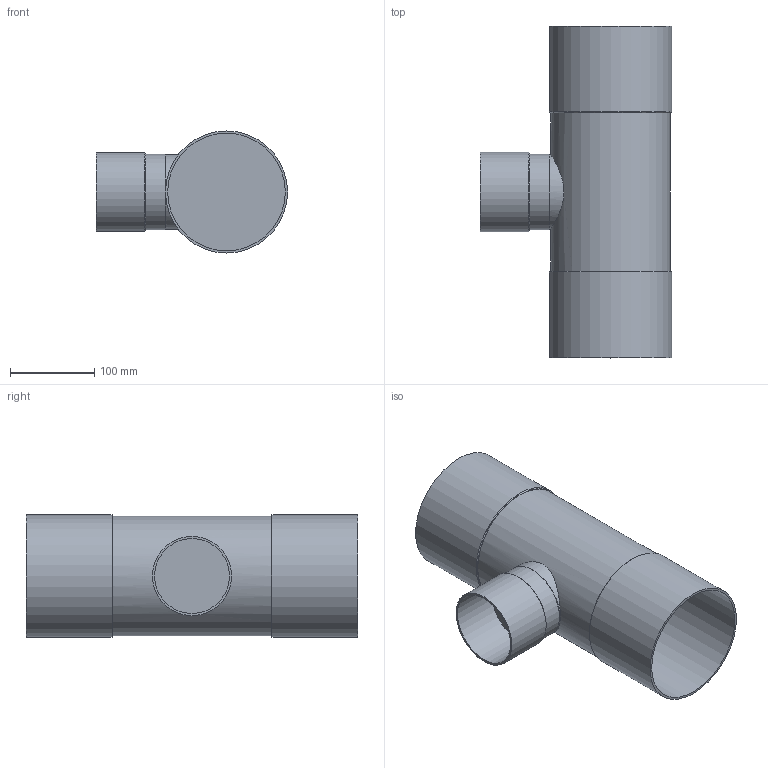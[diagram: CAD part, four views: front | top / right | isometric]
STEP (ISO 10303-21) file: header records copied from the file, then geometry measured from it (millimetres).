
FILE_DESCRIPTION(/* description */ ('Unknown'),/* implementation_level */ '2;1');
FILE_NAME(/* name */ 'F15DN139,7-88,9',/* time_stamp */ '2020-11-17T12:45:33+01:00',/* author */ ('Unknown'),/* organization */ ('Unknown'),/* preprocessor_version */ 'ST-DEVELOPER v16.7',/* originating_system */ 'DEX',/* authorisation */ $);
FILE_SCHEMA (('AUTOMOTIVE_DESIGN {1 0 10303 214 3 1 1}'));
Length unit declared in the file: millimetre
Products named in the file (1): F15DN139,7-88,9
Bounding box: 227 x 394 x 145 mm (x, y, z)
Volume: 3604130 mm3; surface area: 341010.5 mm2
Topology: 1 solids, 1 shells, 22 faces, 38 edges, 26 vertices
Faces by surface type: plane 10, cylinder 9, cone 3
Full cylindrical faces by diameter (mm): 89 x2, 90 x1, 94 x1, 139.7 x2, 142 x1, 145 x2
Entity records: 518 total; most frequent: CARTESIAN_POINT 122, DIRECTION 86, AXIS2_PLACEMENT_3D 43, ORIENTED_EDGE 42, EDGE_LOOP 42, FACE_BOUND 42, ADVANCED_FACE 22, EDGE_CURVE 21
